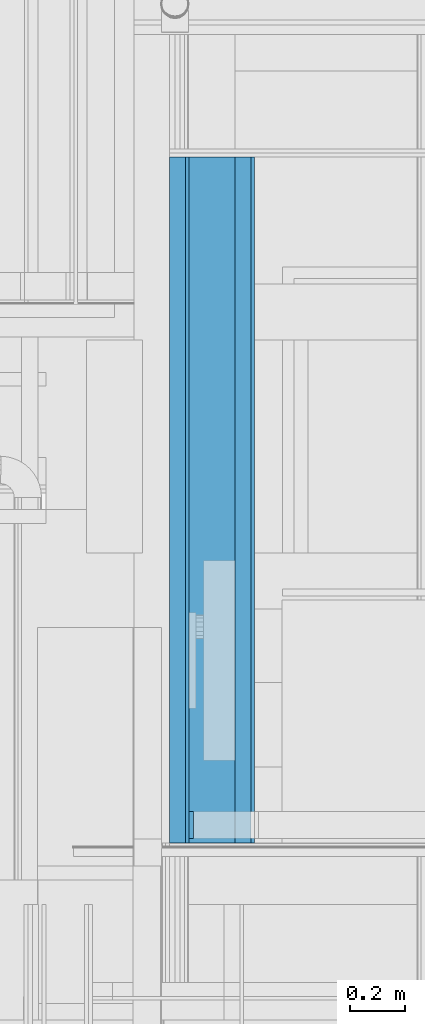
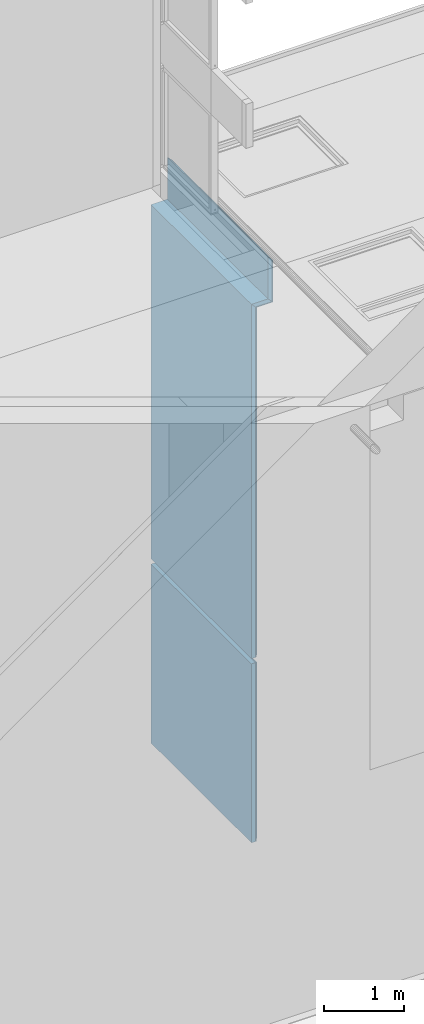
# One storey, part 52 of 583: 10 building element parts, 4 elements without a shape of their own.
"""IFC2X3 building model written with IfcOpenShell, lengths in metres."""

from ifc_helpers import new_model, entity, si_unit, converted_unit, derived_unit, money_unit, direction, frame, frame_2d, origin_with_axes, place, context, subcontext, project, spatial, polyline, rectangle, outline, extrude, material, type_object, element, aggregate, save


model = new_model("IFC2X3")

# Units and contexts
model_context = context("Model", 3, precision=1e-05, world=origin_with_axes(), true_north=direction((0.0, 1.0)))
body_context = subcontext(model_context, "Body", "Model", "MODEL_VIEW", scale=1.0)
ifc_project = project(units=[si_unit("LENGTHUNIT", "METRE"), si_unit("AREAUNIT", "SQUARE_METRE"), si_unit("VOLUMEUNIT", "CUBIC_METRE"), si_unit("ABSORBEDDOSEUNIT", "GRAY"), si_unit("AMOUNTOFSUBSTANCEUNIT", "MOLE"), si_unit("DOSEEQUIVALENTUNIT", "SIEVERT"), si_unit("ELECTRICCAPACITANCEUNIT", "FARAD"), si_unit("ELECTRICCHARGEUNIT", "COULOMB"), si_unit("ELECTRICCONDUCTANCEUNIT", "SIEMENS"), si_unit("ELECTRICCURRENTUNIT", "AMPERE"), si_unit("ELECTRICRESISTANCEUNIT", "OHM"), si_unit("ELECTRICVOLTAGEUNIT", "VOLT"), si_unit("ENERGYUNIT", "JOULE"), si_unit("FORCEUNIT", "NEWTON"), si_unit("FREQUENCYUNIT", "HERTZ"), si_unit("ILLUMINANCEUNIT", "LUX"), si_unit("INDUCTANCEUNIT", "HENRY"), si_unit("LUMINOUSFLUXUNIT", "LUMEN"), si_unit("LUMINOUSINTENSITYUNIT", "CANDELA"), si_unit("MAGNETICFLUXDENSITYUNIT", "TESLA"), si_unit("MAGNETICFLUXUNIT", "WEBER"), si_unit("MASSUNIT", "GRAM"), converted_unit("PLANEANGLEUNIT", "degree", entity("IfcReal", 0.0174532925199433), si_unit("PLANEANGLEUNIT", "RADIAN"), dimensions=[0, 0, 0, 0, 0, 0, 0]), si_unit("POWERUNIT", "WATT"), si_unit("PRESSUREUNIT", "PASCAL"), si_unit("RADIOACTIVITYUNIT", "BECQUEREL"), si_unit("SOLIDANGLEUNIT", "STERADIAN"), si_unit("THERMODYNAMICTEMPERATUREUNIT", "KELVIN"), si_unit("TIMEUNIT", "SECOND"), derived_unit("ACCELERATIONUNIT", [(si_unit("LENGTHUNIT", "METRE"), 1), (si_unit("TIMEUNIT", "SECOND"), -2)]), derived_unit("ANGULARVELOCITYUNIT", [(converted_unit("PLANEANGLEUNIT", "degree", entity("IfcReal", 0.0174532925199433), si_unit("PLANEANGLEUNIT", "RADIAN"), dimensions=[0, 0, 0, 0, 0, 0, 0]), 1), (si_unit("TIMEUNIT", "SECOND"), -1)]), derived_unit("CURVATUREUNIT", [(converted_unit("PLANEANGLEUNIT", "degree", entity("IfcReal", 0.0174532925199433), si_unit("PLANEANGLEUNIT", "RADIAN"), dimensions=[0, 0, 0, 0, 0, 0, 0]), 1), (si_unit("LENGTHUNIT", "METRE"), -1)]), derived_unit("DYNAMICVISCOSITYUNIT", [(si_unit("PRESSUREUNIT", "PASCAL"), 1), (si_unit("TIMEUNIT", "SECOND"), 1)]), derived_unit("HEATFLUXDENSITYUNIT", [(si_unit("POWERUNIT", "WATT"), 1), (si_unit("LENGTHUNIT", "METRE"), -2)]), derived_unit("HEATINGVALUEUNIT", [(si_unit("ENERGYUNIT", "JOULE"), 1), (si_unit("MASSUNIT", "GRAM"), -1)]), derived_unit("INTEGERCOUNTRATEUNIT", [(si_unit("TIMEUNIT", "SECOND"), -1)]), derived_unit("IONCONCENTRATIONUNIT", [(si_unit("MASSUNIT", "GRAM"), 1), (si_unit("VOLUMEUNIT", "CUBIC_METRE"), -1)]), derived_unit("ISOTHERMALMOISTURECAPACITYUNIT", [(si_unit("VOLUMEUNIT", "CUBIC_METRE"), 1), (si_unit("MASSUNIT", "GRAM"), -1)]), derived_unit("KINEMATICVISCOSITYUNIT", [(si_unit("AREAUNIT", "SQUARE_METRE"), 1), (si_unit("TIMEUNIT", "SECOND"), -1)]), derived_unit("LINEARFORCEUNIT", [(si_unit("FORCEUNIT", "NEWTON"), 1), (si_unit("LENGTHUNIT", "METRE"), -1)]), derived_unit("LINEARMOMENTUNIT", [(si_unit("FORCEUNIT", "NEWTON"), 1), (si_unit("LENGTHUNIT", "METRE"), -1)]), derived_unit("LINEARSTIFFNESSUNIT", [(si_unit("FORCEUNIT", "NEWTON"), 1), (si_unit("LENGTHUNIT", "METRE"), -1)]), derived_unit("LINEARVELOCITYUNIT", [(si_unit("LENGTHUNIT", "METRE"), 1), (si_unit("TIMEUNIT", "SECOND"), -1)]), derived_unit("LUMINOUSINTENSITYDISTRIBUTIONUNIT", [(si_unit("LUMINOUSINTENSITYUNIT", "CANDELA"), 1), (si_unit("LUMINOUSFLUXUNIT", "LUMEN"), -1)]), derived_unit("MASSDENSITYUNIT", [(si_unit("MASSUNIT", "GRAM"), 1), (si_unit("VOLUMEUNIT", "CUBIC_METRE"), -1)]), derived_unit("MASSFLOWRATEUNIT", [(si_unit("MASSUNIT", "GRAM"), 1), (si_unit("TIMEUNIT", "SECOND"), -1)]), derived_unit("MASSPERLENGTHUNIT", [(si_unit("MASSUNIT", "GRAM"), 1), (si_unit("LENGTHUNIT", "METRE"), -1)]), derived_unit("MODULUSOFELASTICITYUNIT", [(si_unit("FORCEUNIT", "NEWTON"), 1), (si_unit("AREAUNIT", "SQUARE_METRE"), -1)]), derived_unit("MODULUSOFLINEARSUBGRADEREACTIONUNIT", [(si_unit("FORCEUNIT", "NEWTON"), 1), (si_unit("LENGTHUNIT", "METRE"), -2)]), derived_unit("MODULUSOFROTATIONALSUBGRADEREACTIONUNIT", [(si_unit("FORCEUNIT", "NEWTON"), 1), (si_unit("LENGTHUNIT", "METRE"), 1)]), derived_unit("MODULUSOFSUBGRADEREACTIONUNIT", [(si_unit("FORCEUNIT", "NEWTON"), 1), (si_unit("VOLUMEUNIT", "CUBIC_METRE"), -1)]), derived_unit("MOISTUREDIFFUSIVITYUNIT", [(si_unit("VOLUMEUNIT", "CUBIC_METRE"), 1), (si_unit("TIMEUNIT", "SECOND"), -1)]), derived_unit("MOLECULARWEIGHTUNIT", [(si_unit("MASSUNIT", "GRAM"), 1), (si_unit("AMOUNTOFSUBSTANCEUNIT", "MOLE"), -1)]), derived_unit("PLANARFORCEUNIT", [(si_unit("FORCEUNIT", "NEWTON"), 1), (si_unit("LENGTHUNIT", "METRE"), -2)]), derived_unit("ROTATIONALFREQUENCYUNIT", [(si_unit("TIMEUNIT", "SECOND"), -1)]), derived_unit("ROTATIONALMASSUNIT", [(si_unit("MASSUNIT", "GRAM"), 1), (si_unit("LENGTHUNIT", "METRE"), 2)]), derived_unit("ROTATIONALSTIFFNESSUNIT", [(si_unit("FORCEUNIT", "NEWTON"), 1), (si_unit("LENGTHUNIT", "METRE"), 1), (converted_unit("PLANEANGLEUNIT", "degree", entity("IfcReal", 0.0174532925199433), si_unit("PLANEANGLEUNIT", "RADIAN"), dimensions=[0, 0, 0, 0, 0, 0, 0]), -1)]), derived_unit("SECTIONAREAINTEGRALUNIT", [(si_unit("LENGTHUNIT", "METRE"), 5)]), derived_unit("SECTIONMODULUSUNIT", [(si_unit("LENGTHUNIT", "METRE"), 3)]), derived_unit("SHEARMODULUSUNIT", [(si_unit("FORCEUNIT", "NEWTON"), 1), (si_unit("AREAUNIT", "SQUARE_METRE"), -1)]), derived_unit("SOUNDPOWERUNIT", [(si_unit("ENERGYUNIT", "JOULE"), 1), (si_unit("TIMEUNIT", "SECOND"), -1)]), derived_unit("SPECIFICHEATCAPACITYUNIT", [(si_unit("FORCEUNIT", "NEWTON"), 1), (si_unit("MASSUNIT", "GRAM"), -1), (si_unit("THERMODYNAMICTEMPERATUREUNIT", "KELVIN"), -1)]), derived_unit("TEMPERATUREGRADIENTUNIT", [(si_unit("THERMODYNAMICTEMPERATUREUNIT", "KELVIN"), 1), (si_unit("LENGTHUNIT", "METRE"), -1)]), derived_unit("THERMALADMITTANCEUNIT", [(si_unit("POWERUNIT", "WATT"), 1), (si_unit("AREAUNIT", "SQUARE_METRE"), -1), (si_unit("THERMODYNAMICTEMPERATUREUNIT", "KELVIN"), -1)]), derived_unit("THERMALCONDUCTANCEUNIT", [(si_unit("POWERUNIT", "WATT"), 1), (si_unit("LENGTHUNIT", "METRE"), -1), (si_unit("THERMODYNAMICTEMPERATUREUNIT", "KELVIN"), -1)]), derived_unit("THERMALEXPANSIONCOEFFICIENTUNIT", [(si_unit("THERMODYNAMICTEMPERATUREUNIT", "KELVIN"), -1)]), derived_unit("THERMALRESISTANCEUNIT", [(si_unit("AREAUNIT", "SQUARE_METRE"), 1), (si_unit("POWERUNIT", "WATT"), -1)]), derived_unit("THERMALTRANSMITTANCEUNIT", [(si_unit("POWERUNIT", "WATT"), 1), (si_unit("AREAUNIT", "SQUARE_METRE"), -1), (si_unit("THERMODYNAMICTEMPERATUREUNIT", "KELVIN"), -1)]), derived_unit("TORQUEUNIT", [(si_unit("FORCEUNIT", "NEWTON"), 1), (si_unit("LENGTHUNIT", "METRE"), 1)]), derived_unit("VAPORPERMEABILITYUNIT", [(si_unit("MASSUNIT", "GRAM"), 1), (si_unit("TIMEUNIT", "SECOND"), -1)]), derived_unit("VOLUMETRICFLOWRATEUNIT", [(si_unit("VOLUMEUNIT", "CUBIC_METRE"), 1), (si_unit("TIMEUNIT", "SECOND"), -1)]), derived_unit("WARPINGCONSTANTUNIT", [(si_unit("LENGTHUNIT", "METRE"), 6)]), derived_unit("WARPINGMOMENTUNIT", [(si_unit("FORCEUNIT", "NEWTON"), 1), (si_unit("LENGTHUNIT", "METRE"), 2)]), money_unit("GBP")], contexts=[model_context])

# Site, building, storey
site_placement = place(None, origin_with_axes())
site = spatial("IfcSite", under=ifc_project, at=site_placement, Name="Site", CompositionType="ELEMENT")
building_placement = place(site_placement, origin_with_axes())
building = spatial("IfcBuilding", under=site, at=building_placement, Name="Building01", CompositionType="ELEMENT")
storey_placement = place(building_placement, frame((0.0, 0.0, 20.78), z_axis=(0.0, 0.0, 1.0), x_axis=(1.0, 0.0, 0.0)))
storey = spatial("IfcBuildingStorey", under=building, at=storey_placement, Name="RL", CompositionType="ELEMENT", Elevation=20.78)

# Wall, building element parts
wall_type = type_object("IfcWallType", Name="SHE_A-Walls_Type06c_ExternalWallInsulation_60mm", PredefinedType="NOTDEFINED")
wall_1_placement = place(storey_placement, frame((14.93, 3.185, -20.439223), z_axis=(0.0, 1.0, 0.0), x_axis=(0.0, 0.0, 1.0)))
wall_1 = element("IfcWall", 1, at=wall_1_placement, inside=storey, type_object=wall_type, Name="6C", ObjectType="SHE_A-Walls_Type06c_ExternalWallInsulation_60mm")
ifc_material_1 = material(Name="A_BSUK_Insulation")
placement_1 = place(wall_1_placement, origin_with_axes())
building_element_part_1 = element("IfcBuildingElementPart", 2, at=placement_1, material=ifc_material_1, Name="1", context=body_context, shape_type="SweptSolid", body=[
    extrude(rectangle(XDim=0.06, YDim=2.716637, at=frame_2d((1.358319, 0.03), x_axis=(0.0, -1.0))), origin_with_axes(), (0.0, 0.0, 1.0), 2.5),
])
ifc_material_2 = material(Name="A_BSUK_Walls_Timber")
building_element_part_2 = element("IfcBuildingElementPart", 3, at=placement_1, material=ifc_material_2, Name="2", context=body_context, shape_type="SweptSolid", body=[
    extrude(rectangle(XDim=2.674637, YDim=0.015, at=frame_2d((1.364319, 0.0795), x_axis=(-1.0, 0.0))), frame((0.0, 0.0, 0.015), z_axis=(0.0, 0.0, 1.0), x_axis=(1.0, 0.0, 0.0)), (0.0, 0.0, 1.0), 0.1),
])
ifc_material_3 = material(Name="A_BSUK_WallInternal_Finishes_Plasterboard")
building_element_part_3 = element("IfcBuildingElementPart", 4, at=placement_1, material=ifc_material_3, Name="3", context=body_context, shape_type="SweptSolid", body=[
    extrude(rectangle(XDim=0.013, YDim=2.717637, at=frame_2d((1.357819, 0.0655), x_axis=(0.0, -1.0))), origin_with_axes(), (0.0, 0.0, 1.0), 2.5),
])
aggregate(wall_1, [building_element_part_1, building_element_part_2, building_element_part_3])

wall_2_placement = place(storey_placement, frame((14.93, 3.185, -17.642586), z_axis=(0.0, 1.0, 0.0), x_axis=(0.0, 0.0, 1.0)))
wall_2 = element("IfcWall", 5, at=wall_2_placement, inside=storey, type_object=wall_type, Name="6C", ObjectType="SHE_A-Walls_Type06c_ExternalWallInsulation_60mm")
placement_2 = place(wall_2_placement, origin_with_axes())
building_element_part_4 = element("IfcBuildingElementPart", 6, at=placement_2, material=ifc_material_1, Name="1", context=body_context, shape_type="SweptSolid", body=[
    extrude(outline(polyline([(5.319479, 0.06), (0.0, 0.06), (0.0, 0.0), (5.379479, 0.0), (5.319479, 0.06)])), origin_with_axes(), (0.0, 0.0, 1.0), 2.5),
])
building_element_part_5 = element("IfcBuildingElementPart", 7, at=placement_2, material=ifc_material_2, Name="2", context=body_context, shape_type="SweptSolid", body=[
    extrude(outline(polyline([(5.292479, 0.087), (0.015, 0.087), (0.015, 0.072), (5.307479, 0.072), (5.292479, 0.087)])), frame((0.0, 0.0, 0.015), z_axis=(0.0, 0.0, 1.0), x_axis=(1.0, 0.0, 0.0)), (0.0, 0.0, 1.0), 0.1),
])
building_element_part_6 = element("IfcBuildingElementPart", 8, at=placement_2, material=ifc_material_3, Name="3", context=body_context, shape_type="SweptSolid", body=[
    extrude(outline(polyline([(5.307479, 0.072), (0.0, 0.072), (0.0, 0.059), (5.320479, 0.059), (5.307479, 0.072)])), origin_with_axes(), (0.0, 0.0, 1.0), 2.5),
])
aggregate(wall_2, [building_element_part_4, building_element_part_5, building_element_part_6])

wall_3_placement = place(storey_placement, frame((14.93, 3.185, -12.263107), z_axis=(0.0, 1.0, 0.0), x_axis=(1.0, 0.0, 0.0)))
wall_3 = element("IfcWall", 9, at=wall_3_placement, inside=storey, type_object=wall_type, Name="6C", ObjectType="SHE_A-Walls_Type06c_ExternalWallInsulation_60mm")
placement_3 = place(wall_3_placement, origin_with_axes())
building_element_part_7 = element("IfcBuildingElementPart", 10, at=placement_3, material=ifc_material_1, Name="1", context=body_context, shape_type="SweptSolid", body=[
    extrude(outline(polyline([(0.298, 0.06), (0.06, 0.06), (0.0, 0.0), (0.238, 0.0), (0.298, 0.06)])), origin_with_axes(), (0.0, 0.0, 1.0), 2.5),
])
building_element_part_8 = element("IfcBuildingElementPart", 11, at=placement_3, material=ifc_material_3, Name="3", context=body_context, shape_type="SweptSolid", body=[
    extrude(outline(polyline([(0.31, 0.072), (0.072, 0.072), (0.059, 0.059), (0.297, 0.059), (0.31, 0.072)])), origin_with_axes(), (0.0, 0.0, 1.0), 2.5),
])
aggregate(wall_3, [building_element_part_7, building_element_part_8])

wall_4_placement = place(storey_placement, frame((15.168, 3.185, -12.263107), z_axis=(0.0, 1.0, 0.0), x_axis=(0.0, 0.0, 1.0)))
wall_4 = element("IfcWall", 12, at=wall_4_placement, inside=storey, type_object=wall_type, Name="6C", ObjectType="SHE_A-Walls_Type06c_ExternalWallInsulation_60mm")
placement_4 = place(wall_4_placement, origin_with_axes())
building_element_part_9 = element("IfcBuildingElementPart", 13, at=placement_4, material=ifc_material_1, Name="1", context=body_context, shape_type="SweptSolid", body=[
    extrude(outline(polyline([(0.577372, 0.06), (-0.06, 0.06), (0.0, 0.0), (0.637372, 0.0), (0.577372, 0.06)])), origin_with_axes(), (0.0, 0.0, 1.0), 2.5),
])
building_element_part_10 = element("IfcBuildingElementPart", 14, at=placement_4, material=ifc_material_3, Name="3", context=body_context, shape_type="SweptSolid", body=[
    extrude(outline(polyline([(0.565372, 0.072), (-0.072, 0.072), (-0.059, 0.059), (0.578372, 0.059), (0.565372, 0.072)])), origin_with_axes(), (0.0, 0.0, 1.0), 2.5),
])
aggregate(wall_4, [building_element_part_9, building_element_part_10])

save(model, "model.ifc")
